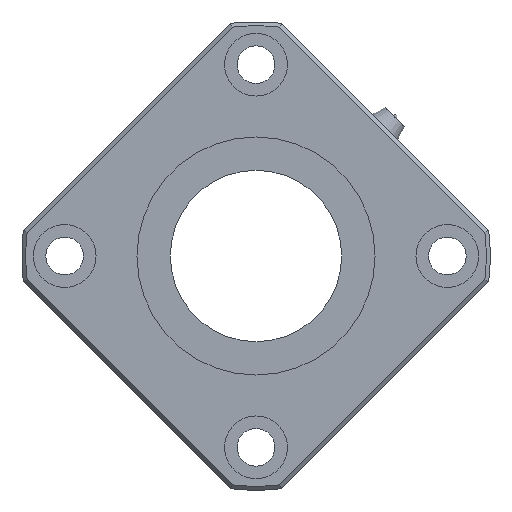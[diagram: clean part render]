
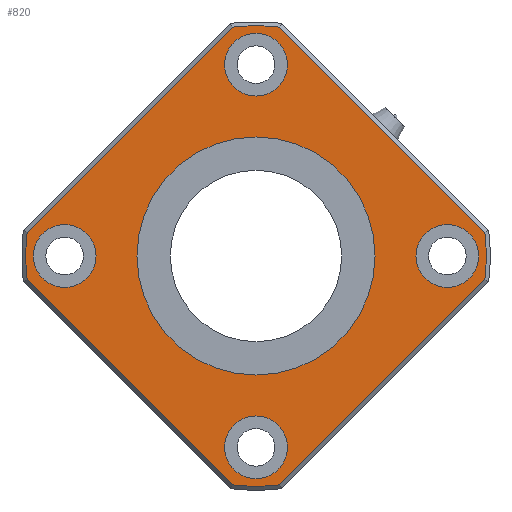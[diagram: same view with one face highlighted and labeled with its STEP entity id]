
A CAD part, left-side view. The second image highlights one B-rep face of the part: STEP entity #820.
In plain terms, the highlighted planar face has unit normal (-1, 0, 0).
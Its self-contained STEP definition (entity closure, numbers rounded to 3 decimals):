
#499=CARTESIAN_POINT('',(0.0,-40.082,-4.183));
#500=VERTEX_POINT('',#499);
#508=CARTESIAN_POINT('',(0.0,-4.183,-40.082));
#509=VERTEX_POINT('',#508);
#510=CARTESIAN_POINT('',(0.0,-40.082,-4.183));
#511=DIRECTION('',(0.0,0.707,-0.707));
#512=VECTOR('',#511,50.77);
#513=LINE('',#510,#512);
#514=EDGE_CURVE('',#500,#509,#513,.T.);
#541=CARTESIAN_POINT('',(0.0,4.183,-40.082));
#542=VERTEX_POINT('',#541);
#543=CARTESIAN_POINT('',(0.0,0.0,0.0));
#544=DIRECTION('',(1.0,0.0,0.0));
#545=DIRECTION('',(0.0,0.0,-1.0));
#546=AXIS2_PLACEMENT_3D('',#543,#544,#545);
#547=CIRCLE('',#546,40.3);
#548=EDGE_CURVE('',#509,#542,#547,.T.);
#572=CARTESIAN_POINT('',(0.0,40.082,-4.183));
#573=VERTEX_POINT('',#572);
#574=CARTESIAN_POINT('',(0.0,4.183,-40.082));
#575=DIRECTION('',(0.0,0.707,0.707));
#576=VECTOR('',#575,50.77);
#577=LINE('',#574,#576);
#578=EDGE_CURVE('',#542,#573,#577,.T.);
#597=CARTESIAN_POINT('',(0.0,40.082,4.183));
#598=VERTEX_POINT('',#597);
#599=CARTESIAN_POINT('',(0.0,0.0,0.0));
#600=DIRECTION('',(1.0,0.0,0.0));
#601=DIRECTION('',(0.0,0.0,1.0));
#602=AXIS2_PLACEMENT_3D('',#599,#600,#601);
#603=CIRCLE('',#602,40.3);
#604=EDGE_CURVE('',#573,#598,#603,.T.);
#623=CARTESIAN_POINT('',(0.0,4.183,40.082));
#624=VERTEX_POINT('',#623);
#625=CARTESIAN_POINT('',(0.0,40.082,4.183));
#626=DIRECTION('',(0.0,-0.707,0.707));
#627=VECTOR('',#626,50.77);
#628=LINE('',#625,#627);
#629=EDGE_CURVE('',#598,#624,#628,.T.);
#648=CARTESIAN_POINT('',(0.0,-4.183,40.082));
#649=VERTEX_POINT('',#648);
#650=CARTESIAN_POINT('',(0.0,0.0,0.0));
#651=DIRECTION('',(1.0,0.0,0.0));
#652=DIRECTION('',(0.0,0.0,1.0));
#653=AXIS2_PLACEMENT_3D('',#650,#651,#652);
#654=CIRCLE('',#653,40.3);
#655=EDGE_CURVE('',#624,#649,#654,.T.);
#674=CARTESIAN_POINT('',(0.0,-40.082,4.183));
#675=VERTEX_POINT('',#674);
#676=CARTESIAN_POINT('',(0.0,-4.183,40.082));
#677=DIRECTION('',(0.0,-0.707,-0.707));
#678=VECTOR('',#677,50.77);
#679=LINE('',#676,#678);
#680=EDGE_CURVE('',#649,#675,#679,.T.);
#705=CARTESIAN_POINT('',(0.0,0.0,0.0));
#706=DIRECTION('',(1.0,0.0,0.0));
#707=DIRECTION('',(0.0,0.0,1.0));
#708=AXIS2_PLACEMENT_3D('',#705,#706,#707);
#709=CIRCLE('',#708,40.3);
#710=EDGE_CURVE('',#675,#500,#709,.T.);
#750=CARTESIAN_POINT('',(0.0,0.0,23.425));
#751=DIRECTION('',(-1.0,0.0,0.0));
#752=DIRECTION('',(0.0,0.0,1.0));
#753=AXIS2_PLACEMENT_3D('',#750,#751,#752);
#754=PLANE('',#753);
#755=ORIENTED_EDGE('',*,*,#514,.F.);
#756=ORIENTED_EDGE('',*,*,#710,.F.);
#757=ORIENTED_EDGE('',*,*,#680,.F.);
#758=ORIENTED_EDGE('',*,*,#655,.F.);
#759=ORIENTED_EDGE('',*,*,#629,.F.);
#760=ORIENTED_EDGE('',*,*,#604,.F.);
#761=ORIENTED_EDGE('',*,*,#578,.F.);
#762=ORIENTED_EDGE('',*,*,#548,.F.);
#763=EDGE_LOOP('',(#755,#756,#757,#758,#759,#760,#761,#762));
#764=FACE_OUTER_BOUND('',#763,.T.);
#765=CARTESIAN_POINT('',(0.0,0.0,20.85));
#766=VERTEX_POINT('',#765);
#767=CARTESIAN_POINT('',(0.0,0.0,0.0));
#768=DIRECTION('',(-1.0,0.0,0.0));
#769=DIRECTION('',(0.0,0.0,1.0));
#770=AXIS2_PLACEMENT_3D('',#767,#768,#769);
#771=CIRCLE('',#770,20.85);
#772=EDGE_CURVE('',#766,#766,#771,.T.);
#773=ORIENTED_EDGE('',*,*,#772,.F.);
#774=EDGE_LOOP('',(#773));
#775=FACE_BOUND('',#774,.T.);
#776=CARTESIAN_POINT('',(0.0,-28.,0.));
#777=VERTEX_POINT('',#776);
#778=CARTESIAN_POINT('',(0.0,-33.5,0.));
#779=DIRECTION('',(1.0,0.0,0.0));
#780=DIRECTION('',(0.0,1.0,0.0));
#781=AXIS2_PLACEMENT_3D('',#778,#779,#780);
#782=CIRCLE('',#781,5.5);
#783=EDGE_CURVE('',#777,#777,#782,.T.);
#784=ORIENTED_EDGE('',*,*,#783,.T.);
#785=EDGE_LOOP('',(#784));
#786=FACE_BOUND('',#785,.T.);
#787=CARTESIAN_POINT('',(0.0,39.0,0.));
#788=VERTEX_POINT('',#787);
#789=CARTESIAN_POINT('',(0.0,33.5,0.));
#790=DIRECTION('',(1.0,0.0,0.0));
#791=DIRECTION('',(0.0,1.0,0.0));
#792=AXIS2_PLACEMENT_3D('',#789,#790,#791);
#793=CIRCLE('',#792,5.5);
#794=EDGE_CURVE('',#788,#788,#793,.T.);
#795=ORIENTED_EDGE('',*,*,#794,.T.);
#796=EDGE_LOOP('',(#795));
#797=FACE_BOUND('',#796,.T.);
#798=CARTESIAN_POINT('',(0.0,5.5,33.5));
#799=VERTEX_POINT('',#798);
#800=CARTESIAN_POINT('',(0.0,0.,33.5));
#801=DIRECTION('',(1.0,0.0,0.0));
#802=DIRECTION('',(0.0,1.0,0.0));
#803=AXIS2_PLACEMENT_3D('',#800,#801,#802);
#804=CIRCLE('',#803,5.5);
#805=EDGE_CURVE('',#799,#799,#804,.T.);
#806=ORIENTED_EDGE('',*,*,#805,.T.);
#807=EDGE_LOOP('',(#806));
#808=FACE_BOUND('',#807,.T.);
#809=CARTESIAN_POINT('',(0.0,5.5,-33.5));
#810=VERTEX_POINT('',#809);
#811=CARTESIAN_POINT('',(0.0,0.,-33.5));
#812=DIRECTION('',(1.0,0.0,0.0));
#813=DIRECTION('',(0.0,1.0,0.0));
#814=AXIS2_PLACEMENT_3D('',#811,#812,#813);
#815=CIRCLE('',#814,5.5);
#816=EDGE_CURVE('',#810,#810,#815,.T.);
#817=ORIENTED_EDGE('',*,*,#816,.T.);
#818=EDGE_LOOP('',(#817));
#819=FACE_BOUND('',#818,.T.);
#820=ADVANCED_FACE('',(#764,#775,#786,#797,#808,#819),#754,.T.);
